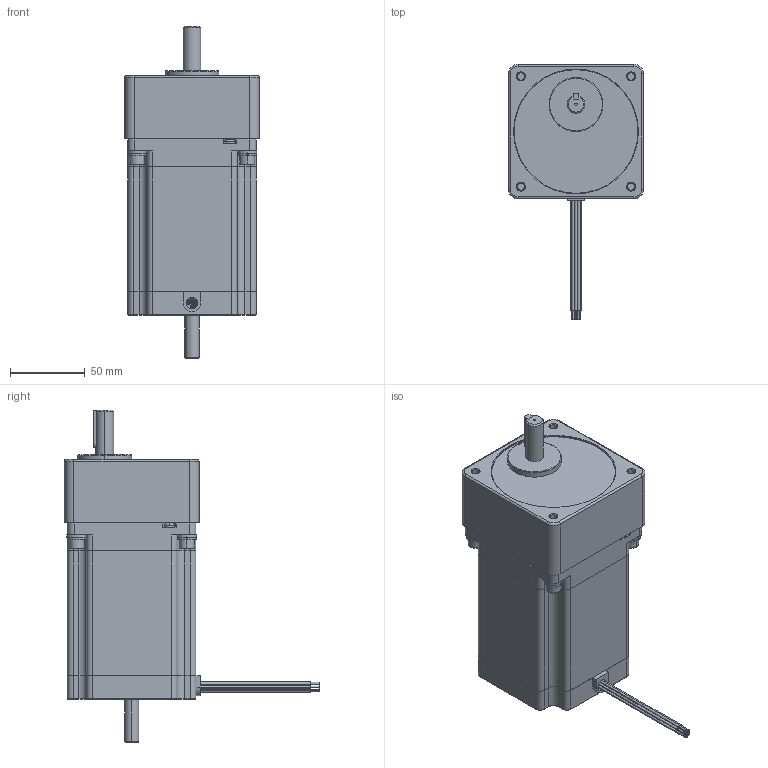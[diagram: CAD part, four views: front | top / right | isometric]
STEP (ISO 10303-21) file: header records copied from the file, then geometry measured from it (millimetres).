
FILE_DESCRIPTION (( 'STEP AP214' ), '1' );
FILE_NAME ('34YSG208D-LW8-R12.5.STEP', '2010-06-18T16:39:46', ( 'Tim Raines' ), ( 'Anaheim Automation' ), 'SwSTEP 2.0', 'SolidWorks 2010', '' );
FILE_SCHEMA (( 'AUTOMOTIVE_DESIGN' ));
Length unit declared in the file: millimetre
Products named in the file (6): 34YSG Motor_34YSG208D-LW8; 34SG Series_34SG1; Lock Washer Spring Regular_AI_Regular LW 0.25; Socket Head Cap Screw_AM_B18.3.1M - 6 x 1.0 x 20 Hex SHCS -- 20NHX; Flat Washer Narrow_AM_B18.22M - Plain washer, 6 mm, narrow; 34YSG208D-LW8-R12.5
Assembly tree (14 placements, depth 2):
  34YSG208D-LW8-R12.5
    Socket Head Cap Screw_AM_B18.3.1M - 6 x 1.0 x 20 Hex SHCS -- 20NHX  x4
    34SG Series_34SG1
    Lock Washer Spring Regular_AI_Regular LW 0.25  x4
    Flat Washer Narrow_AM_B18.22M - Plain washer, 6 mm, narrow  x4
    34YSG Motor_34YSG208D-LW8
Bounding box: 89.92 x 170.43 x 221.56 mm (x, y, z)
Volume: 1126169.8 mm3; surface area: 102748.5 mm2
Topology: 14 solids, 14 shells, 587 faces, 1391 edges, 862 vertices
Faces by surface type: plane 272, cylinder 194, cone 101, torus 20
Entity records: 18773 total; most frequent: CARTESIAN_POINT 2631, DIRECTION 2475, ORIENTED_EDGE 2262, EDGE_CURVE 1131, AXIS2_PLACEMENT_3D 919, VERTEX_POINT 715, VECTOR 637, LINE 637
